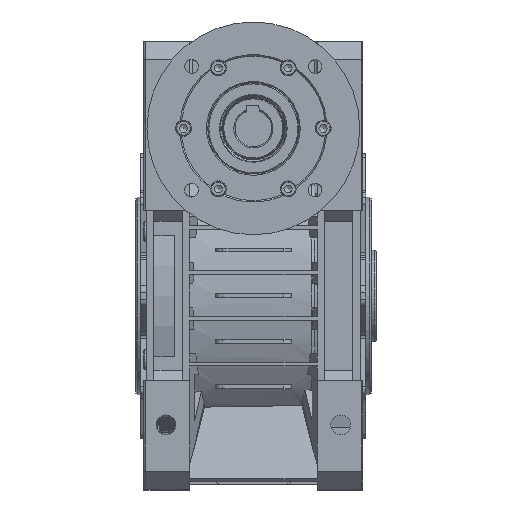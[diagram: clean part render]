
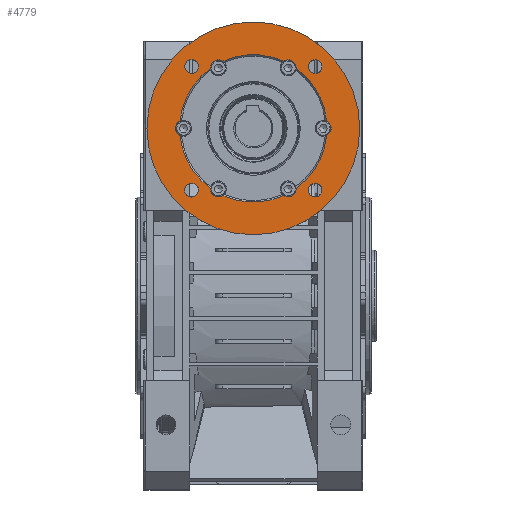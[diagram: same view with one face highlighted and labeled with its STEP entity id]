
A CAD part, top view. The second image highlights one B-rep face of the part: STEP entity #4779.
In plain terms, the highlighted planar face has unit normal (0, 0, 1).
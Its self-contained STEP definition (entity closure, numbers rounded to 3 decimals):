
#3495=CARTESIAN_POINT('',(-45.159,40.659,145.5));
#3496=VERTEX_POINT('',#3495);
#3497=CARTESIAN_POINT('',(-40.659,40.659,145.5));
#3498=DIRECTION('',(0.0,0.0,-1.0));
#3499=DIRECTION('',(1.0,0.0,0.0));
#3500=AXIS2_PLACEMENT_3D('',#3497,#3498,#3499);
#3501=CIRCLE('',#3500,4.5);
#3502=EDGE_CURVE('',#3496,#3496,#3501,.T.);
#3883=CARTESIAN_POINT('',(45.159,-40.659,145.5));
#3884=VERTEX_POINT('',#3883);
#3885=CARTESIAN_POINT('',(40.659,-40.659,145.5));
#3886=DIRECTION('',(0.0,0.0,-1.0));
#3887=DIRECTION('',(-1.0,0.0,0.0));
#3888=AXIS2_PLACEMENT_3D('',#3885,#3886,#3887);
#3889=CIRCLE('',#3888,4.5);
#3890=EDGE_CURVE('',#3884,#3884,#3889,.T.);
#3911=CARTESIAN_POINT('',(-40.659,-45.159,145.5));
#3912=VERTEX_POINT('',#3911);
#3913=CARTESIAN_POINT('',(-40.659,-40.659,145.5));
#3914=DIRECTION('',(0.0,0.0,-1.0));
#3915=DIRECTION('',(0.0,1.0,0.0));
#3916=AXIS2_PLACEMENT_3D('',#3913,#3914,#3915);
#3917=CIRCLE('',#3916,4.5);
#3918=EDGE_CURVE('',#3912,#3912,#3917,.T.);
#3939=CARTESIAN_POINT('',(40.659,45.159,145.5));
#3940=VERTEX_POINT('',#3939);
#3941=CARTESIAN_POINT('',(40.659,40.659,145.5));
#3942=DIRECTION('',(0.0,0.0,-1.0));
#3943=DIRECTION('',(0.0,-1.0,0.0));
#3944=AXIS2_PLACEMENT_3D('',#3941,#3942,#3943);
#3945=CIRCLE('',#3944,4.5);
#3946=EDGE_CURVE('',#3940,#3940,#3945,.T.);
#4003=CARTESIAN_POINT('',(-28.235,-39.434,145.5));
#4004=VERTEX_POINT('',#4003);
#4016=CARTESIAN_POINT('',(-20.034,-44.169,145.5));
#4017=VERTEX_POINT('',#4016);
#4018=CARTESIAN_POINT('',(-23.,-39.837,145.5));
#4019=DIRECTION('',(0.0,0.0,-1.0));
#4020=DIRECTION('',(-1.0,0.0,0.0));
#4021=AXIS2_PLACEMENT_3D('',#4018,#4019,#4020);
#4022=CIRCLE('',#4021,5.25);
#4023=EDGE_CURVE('',#4017,#4004,#4022,.T.);
#4098=CARTESIAN_POINT('',(48.268,-4.735,145.5));
#4099=VERTEX_POINT('',#4098);
#4111=CARTESIAN_POINT('',(48.268,4.735,145.5));
#4112=VERTEX_POINT('',#4111);
#4113=CARTESIAN_POINT('',(46.,0.,145.5));
#4114=DIRECTION('',(0.0,0.0,-1.0));
#4115=DIRECTION('',(-1.0,0.0,0.0));
#4116=AXIS2_PLACEMENT_3D('',#4113,#4114,#4115);
#4117=CIRCLE('',#4116,5.25);
#4118=EDGE_CURVE('',#4112,#4099,#4117,.T.);
#4193=CARTESIAN_POINT('',(-20.034,44.169,145.5));
#4194=VERTEX_POINT('',#4193);
#4206=CARTESIAN_POINT('',(-28.235,39.434,145.5));
#4207=VERTEX_POINT('',#4206);
#4208=CARTESIAN_POINT('',(-23.,39.837,145.5));
#4209=DIRECTION('',(0.0,0.0,-1.0));
#4210=DIRECTION('',(-1.0,0.0,0.0));
#4211=AXIS2_PLACEMENT_3D('',#4208,#4209,#4210);
#4212=CIRCLE('',#4211,5.25);
#4213=EDGE_CURVE('',#4207,#4194,#4212,.T.);
#4280=CARTESIAN_POINT('',(28.235,39.434,145.5));
#4281=VERTEX_POINT('',#4280);
#4293=CARTESIAN_POINT('',(20.034,44.169,145.5));
#4294=VERTEX_POINT('',#4293);
#4295=CARTESIAN_POINT('',(23.,39.837,145.5));
#4296=DIRECTION('',(0.0,0.0,-1.0));
#4297=DIRECTION('',(-1.0,0.0,0.0));
#4298=AXIS2_PLACEMENT_3D('',#4295,#4296,#4297);
#4299=CIRCLE('',#4298,5.25);
#4300=EDGE_CURVE('',#4294,#4281,#4299,.T.);
#4375=CARTESIAN_POINT('',(20.034,-44.169,145.5));
#4376=VERTEX_POINT('',#4375);
#4388=CARTESIAN_POINT('',(28.235,-39.434,145.5));
#4389=VERTEX_POINT('',#4388);
#4390=CARTESIAN_POINT('',(23.,-39.837,145.5));
#4391=DIRECTION('',(0.0,0.0,-1.0));
#4392=DIRECTION('',(-1.0,0.0,0.0));
#4393=AXIS2_PLACEMENT_3D('',#4390,#4391,#4392);
#4394=CIRCLE('',#4393,5.25);
#4395=EDGE_CURVE('',#4389,#4376,#4394,.T.);
#4462=CARTESIAN_POINT('',(-48.268,4.735,145.5));
#4463=VERTEX_POINT('',#4462);
#4475=CARTESIAN_POINT('',(-48.268,-4.735,145.5));
#4476=VERTEX_POINT('',#4475);
#4477=CARTESIAN_POINT('',(-46.,0.,145.5));
#4478=DIRECTION('',(0.0,0.0,-1.0));
#4479=DIRECTION('',(-1.0,0.0,0.0));
#4480=AXIS2_PLACEMENT_3D('',#4477,#4478,#4479);
#4481=CIRCLE('',#4480,5.25);
#4482=EDGE_CURVE('',#4476,#4463,#4481,.T.);
#4574=CARTESIAN_POINT('',(0.,0.,145.5));
#4575=DIRECTION('',(0.0,0.0,-1.0));
#4576=DIRECTION('',(0.0,1.0,0.0));
#4577=AXIS2_PLACEMENT_3D('',#4574,#4575,#4576);
#4578=CIRCLE('',#4577,48.5);
#4579=EDGE_CURVE('',#4281,#4112,#4578,.T.);
#4616=CARTESIAN_POINT('',(0.,0.,145.5));
#4617=DIRECTION('',(0.0,0.0,-1.0));
#4618=DIRECTION('',(0.0,1.0,0.0));
#4619=AXIS2_PLACEMENT_3D('',#4616,#4617,#4618);
#4620=CIRCLE('',#4619,48.5);
#4621=EDGE_CURVE('',#4376,#4017,#4620,.T.);
#4707=CARTESIAN_POINT('',(0.,0.,145.5));
#4708=DIRECTION('',(0.0,0.0,-1.0));
#4709=DIRECTION('',(0.0,1.0,0.0));
#4710=AXIS2_PLACEMENT_3D('',#4707,#4708,#4709);
#4711=CIRCLE('',#4710,48.5);
#4712=EDGE_CURVE('',#4463,#4207,#4711,.T.);
#4719=CARTESIAN_POINT('',(0.,59.25,145.5));
#4720=DIRECTION('',(0.0,0.0,1.0));
#4721=DIRECTION('',(1.0,0.0,0.0));
#4722=AXIS2_PLACEMENT_3D('',#4719,#4720,#4721);
#4723=PLANE('',#4722);
#4724=CARTESIAN_POINT('',(0.,70.,145.5));
#4725=VERTEX_POINT('',#4724);
#4726=CARTESIAN_POINT('',(0.,0.,145.5));
#4727=DIRECTION('',(0.0,0.0,-1.0));
#4728=DIRECTION('',(0.0,1.0,0.0));
#4729=AXIS2_PLACEMENT_3D('',#4726,#4727,#4728);
#4730=CIRCLE('',#4729,70.0);
#4731=EDGE_CURVE('',#4725,#4725,#4730,.T.);
#4732=ORIENTED_EDGE('',*,*,#4731,.F.);
#4733=EDGE_LOOP('',(#4732));
#4734=FACE_OUTER_BOUND('',#4733,.T.);
#4735=ORIENTED_EDGE('',*,*,#3502,.T.);
#4736=EDGE_LOOP('',(#4735));
#4737=FACE_BOUND('',#4736,.T.);
#4738=ORIENTED_EDGE('',*,*,#3918,.T.);
#4739=EDGE_LOOP('',(#4738));
#4740=FACE_BOUND('',#4739,.T.);
#4741=ORIENTED_EDGE('',*,*,#3946,.T.);
#4742=EDGE_LOOP('',(#4741));
#4743=FACE_BOUND('',#4742,.T.);
#4744=ORIENTED_EDGE('',*,*,#3890,.T.);
#4745=EDGE_LOOP('',(#4744));
#4746=FACE_BOUND('',#4745,.T.);
#4747=ORIENTED_EDGE('',*,*,#4023,.T.);
#4748=CARTESIAN_POINT('',(0.,0.,145.5));
#4749=DIRECTION('',(0.0,0.0,-1.0));
#4750=DIRECTION('',(0.0,1.0,0.0));
#4751=AXIS2_PLACEMENT_3D('',#4748,#4749,#4750);
#4752=CIRCLE('',#4751,48.5);
#4753=EDGE_CURVE('',#4004,#4476,#4752,.T.);
#4754=ORIENTED_EDGE('',*,*,#4753,.T.);
#4755=ORIENTED_EDGE('',*,*,#4482,.T.);
#4756=ORIENTED_EDGE('',*,*,#4712,.T.);
#4757=ORIENTED_EDGE('',*,*,#4213,.T.);
#4758=CARTESIAN_POINT('',(0.,0.,145.5));
#4759=DIRECTION('',(0.0,0.0,-1.0));
#4760=DIRECTION('',(0.0,1.0,0.0));
#4761=AXIS2_PLACEMENT_3D('',#4758,#4759,#4760);
#4762=CIRCLE('',#4761,48.5);
#4763=EDGE_CURVE('',#4194,#4294,#4762,.T.);
#4764=ORIENTED_EDGE('',*,*,#4763,.T.);
#4765=ORIENTED_EDGE('',*,*,#4300,.T.);
#4766=ORIENTED_EDGE('',*,*,#4579,.T.);
#4767=ORIENTED_EDGE('',*,*,#4118,.T.);
#4768=CARTESIAN_POINT('',(0.,0.,145.5));
#4769=DIRECTION('',(0.0,0.0,-1.0));
#4770=DIRECTION('',(0.0,1.0,0.0));
#4771=AXIS2_PLACEMENT_3D('',#4768,#4769,#4770);
#4772=CIRCLE('',#4771,48.5);
#4773=EDGE_CURVE('',#4099,#4389,#4772,.T.);
#4774=ORIENTED_EDGE('',*,*,#4773,.T.);
#4775=ORIENTED_EDGE('',*,*,#4395,.T.);
#4776=ORIENTED_EDGE('',*,*,#4621,.T.);
#4777=EDGE_LOOP('',(#4747,#4754,#4755,#4756,#4757,#4764,#4765,#4766,#4767,#4774,#4775,#4776));
#4778=FACE_BOUND('',#4777,.T.);
#4779=ADVANCED_FACE('',(#4734,#4737,#4740,#4743,#4746,#4778),#4723,.T.);
